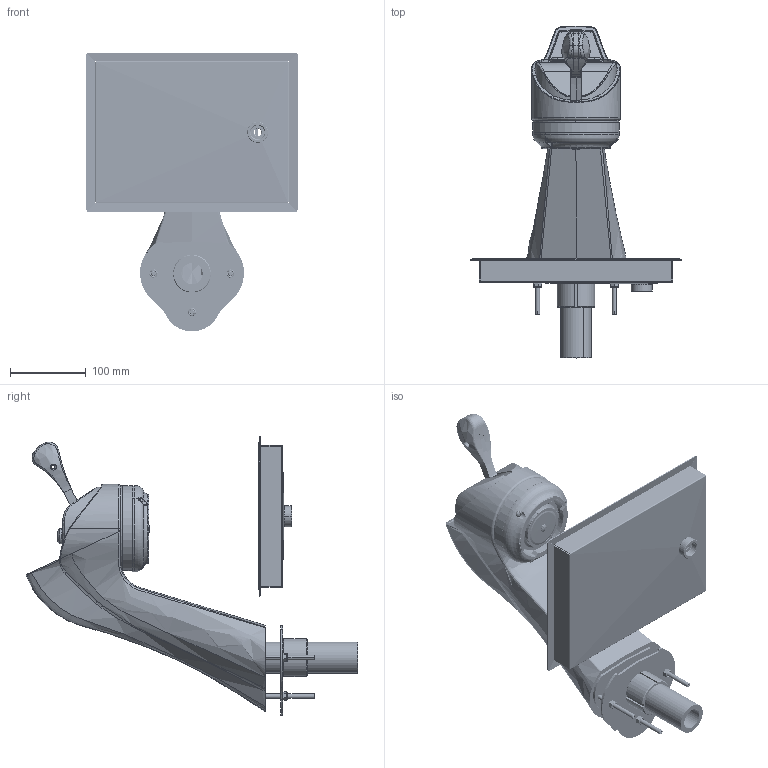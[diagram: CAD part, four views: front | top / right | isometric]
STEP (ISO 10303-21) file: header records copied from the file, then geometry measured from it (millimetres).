
FILE_DESCRIPTION (( 'STEP AP214' ), '1' );
FILE_NAME ('LM0013534_TAP_MODBAR-AV.step', '2023-03-02T15:06:09', ( '' ), ( '' ), 'SwSTEP 2.0', 'SolidWorks 2021', '' );
FILE_SCHEMA (( 'AUTOMOTIVE_DESIGN' ));
Length unit declared in the file: millimetre
Products named in the file (29): LM0012983; LM0013534_TAP_MODBAR-AV; LM0012211; LM0007280; LM0009830; LM0012539; LM0012182_Saldato; LM0010670; LM0001872; LM0002048; LM0010669_Defaullt; LM0013425; LM0002237; LM0012977; LM0008486; LM0012686; LM0007134; LM0012633; LM0001873; LM0002089; LM0001877; LM0007255; LM0008488; LM0009831; LM0007278; LM0012538; LM0001875; LM0013240; LM0012982
Assembly tree (36 placements, depth 3):
  LM0013534_TAP_MODBAR-AV
    LM0007280
    LM0007278
    LM0010670
    LM0012633
    LM0010669_Defaullt
    LM0008486  x3
    LM0008488  x3
    LM0002048
    LM0001872
      LM0001877
      LM0001875
      LM0001873
    LM0002237
    LM0012211
    LM0013425
    LM0012538
      LM0012539
      LM0009830
      LM0009831
    LM0012982
      LM0012983
      LM0012182_Saldato
    LM0012977
    LM0007134
    LM0007255
    LM0012686
    LM0013240  x3
    LM0002089  x3
Bounding box: 278.75 x 437.83 x 367.87 mm (x, y, z)
Volume: 1043256.3 mm3; surface area: 707425.7 mm2
Topology: 51 solids, 51 shells, 3698 faces, 9776 edges, 6167 vertices
Faces by surface type: cylinder 1484, plane 1286, bspline 398, torus 366, cone 154, sphere 10
Entity records: 203813 total; most frequent: CARTESIAN_POINT 118533, ORIENTED_EDGE 18036, DIRECTION 15858, EDGE_CURVE 9018, VERTEX_POINT 5679, AXIS2_PLACEMENT_3D 5664, VECTOR 4530, LINE 4530
